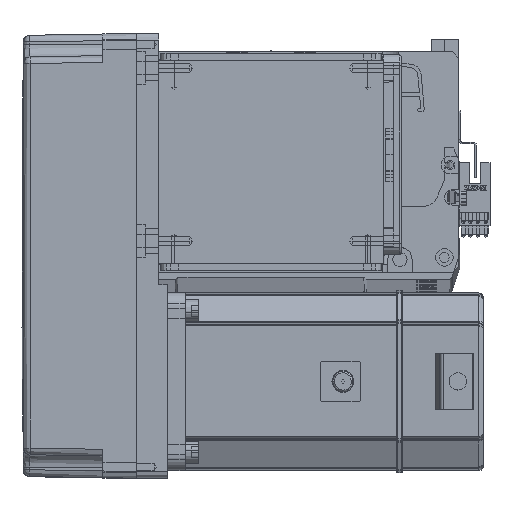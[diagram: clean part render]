
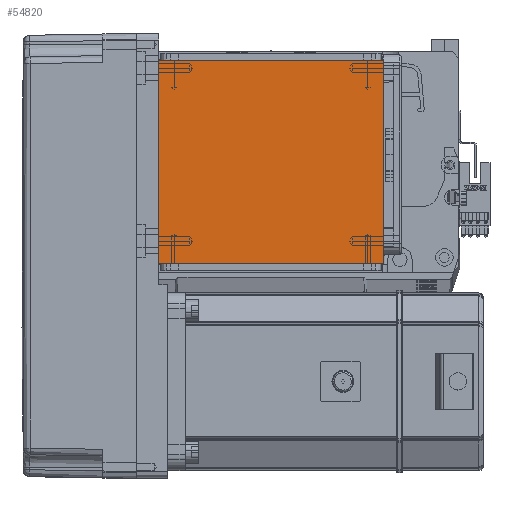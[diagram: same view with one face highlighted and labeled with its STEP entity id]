
A CAD part, top view. The second image highlights one B-rep face of the part: STEP entity #54820.
In plain terms, the highlighted planar face has unit normal (0, 0, 1).
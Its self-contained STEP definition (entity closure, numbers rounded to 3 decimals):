
#143 = CARTESIAN_POINT ( 'NONE',  ( -70.004, 20., 115. ) ) ;
#186 = EDGE_CURVE ( 'NONE', #34709, #21512, #31784, .T. ) ;
#712 = CARTESIAN_POINT ( 'NONE',  ( 50.5, 111.5, 115. ) ) ;
#2094 = VECTOR ( 'NONE', #56485, 1000. ) ;
#3894 = CARTESIAN_POINT ( 'NONE',  ( -50.5, 20., 115. ) ) ;
#6317 = VERTEX_POINT ( 'NONE', #712 ) ;
#7611 = DIRECTION ( 'NONE',  ( 1., 0., 0. ) ) ;
#7756 = EDGE_CURVE ( 'NONE', #62086, #6317, #8842, .T. ) ;
#8842 = LINE ( 'NONE', #53785, #38013 ) ;
#11480 = CARTESIAN_POINT ( 'NONE',  ( -50.5, 111.5, 115. ) ) ;
#21391 = EDGE_CURVE ( 'NONE', #62086, #21512, #36305, .T. ) ;
#21512 = VERTEX_POINT ( 'NONE', #3894 ) ;
#21569 = DIRECTION ( 'NONE',  ( -1., 0., 0. ) ) ;
#23008 = ORIENTED_EDGE ( 'NONE', *, *, #186, .F. ) ;
#23891 = DIRECTION ( 'NONE',  ( 1., 0., 0. ) ) ;
#27339 = VECTOR ( 'NONE', #58801, 1000. ) ;
#29226 = DIRECTION ( 'NONE',  ( 0., 0., 1. ) ) ;
#29825 = LINE ( 'NONE', #64426, #27339 ) ;
#31784 = LINE ( 'NONE', #143, #59182 ) ;
#34365 = ORIENTED_EDGE ( 'NONE', *, *, #21391, .T. ) ;
#34605 = FACE_OUTER_BOUND ( 'NONE', #45425, .T. ) ;
#34709 = VERTEX_POINT ( 'NONE', #52737 ) ;
#36305 = LINE ( 'NONE', #61406, #2094 ) ;
#38013 = VECTOR ( 'NONE', #23891, 1000. ) ;
#42203 = ORIENTED_EDGE ( 'NONE', *, *, #53030, .T. ) ;
#45116 = CARTESIAN_POINT ( 'NONE',  ( 0., 0., 115. ) ) ;
#45425 = EDGE_LOOP ( 'NONE', ( #56640, #34365, #23008, #42203 ) ) ;
#52737 = CARTESIAN_POINT ( 'NONE',  ( 50.5, 20., 115. ) ) ;
#53030 = EDGE_CURVE ( 'NONE', #34709, #6317, #29825, .T. ) ;
#53785 = CARTESIAN_POINT ( 'NONE',  ( -70.004, 111.5, 115. ) ) ;
#54820 = ADVANCED_FACE ( 'NONE', ( #34605 ), #55322, .T. ) ;
#55322 = PLANE ( 'NONE',  #62882 ) ;
#56485 = DIRECTION ( 'NONE',  ( 0., -1., 0. ) ) ;
#56640 = ORIENTED_EDGE ( 'NONE', *, *, #7756, .F. ) ;
#58801 = DIRECTION ( 'NONE',  ( 0., 1., 0. ) ) ;
#59182 = VECTOR ( 'NONE', #21569, 1000. ) ;
#61406 = CARTESIAN_POINT ( 'NONE',  ( -50.5, 122., 115. ) ) ;
#62086 = VERTEX_POINT ( 'NONE', #11480 ) ;
#62882 = AXIS2_PLACEMENT_3D ( 'NONE', #45116, #29226, #7611 ) ;
#64426 = CARTESIAN_POINT ( 'NONE',  ( 50.5, 122., 115. ) ) ;
